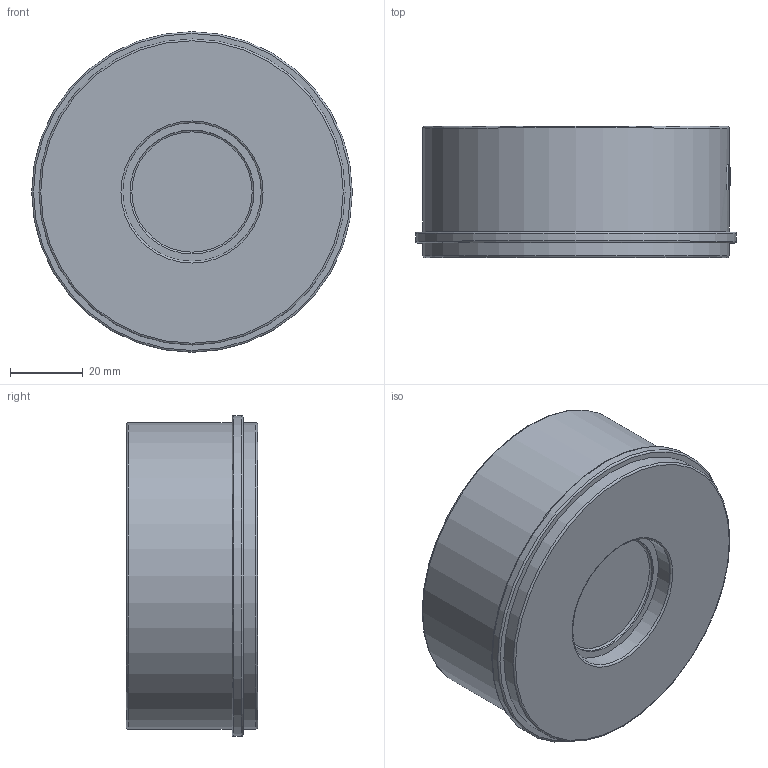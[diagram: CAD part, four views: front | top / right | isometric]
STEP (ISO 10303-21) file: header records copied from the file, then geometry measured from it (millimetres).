
FILE_DESCRIPTION(('STEP AP242'), '1');
FILE_NAME('VCS3232-Fb Êëàïàí îáðàòíûé ïðóæèííûé DN.ru Äó40 Ðó40', '', ('UNSPECIFIED'), ('UNSPECIFIED'), 'C3D Converter', 'C3D Toolkit', '');
FILE_SCHEMA(('AP242_MANAGED_MODEL_BASED_3D_ENGINEERING_MIM_LF { 1 0 10303 442 1 1 4 }'));
Length unit declared in the file: millimetre
Products named in the file (1): VCS3232-Fb
Bounding box: 88 x 36 x 88 mm (x, y, z)
Volume: 64869.9 mm3; surface area: 40649.9 mm2
Topology: 1 solids, 1 shells, 137 faces, 363 edges, 244 vertices
Faces by surface type: plane 53, extrusion 40, cylinder 29, torus 10, bspline 3, cone 2
Full cylindrical faces by diameter (mm): 10 x2, 18 x2, 34 x1, 38 x1, 46 x1, 47 x1, 64 x1, 78 x1, 84 x2, 88 x1
Entity records: 9865 total; most frequent: CARTESIAN_POINT 6610, ORIENTED_EDGE 670, DIRECTION 545, EDGE_CURVE 335, VERTEX_POINT 244, AXIS2_PLACEMENT_3D 199, EDGE_LOOP 189, FACE_BOUND 168
